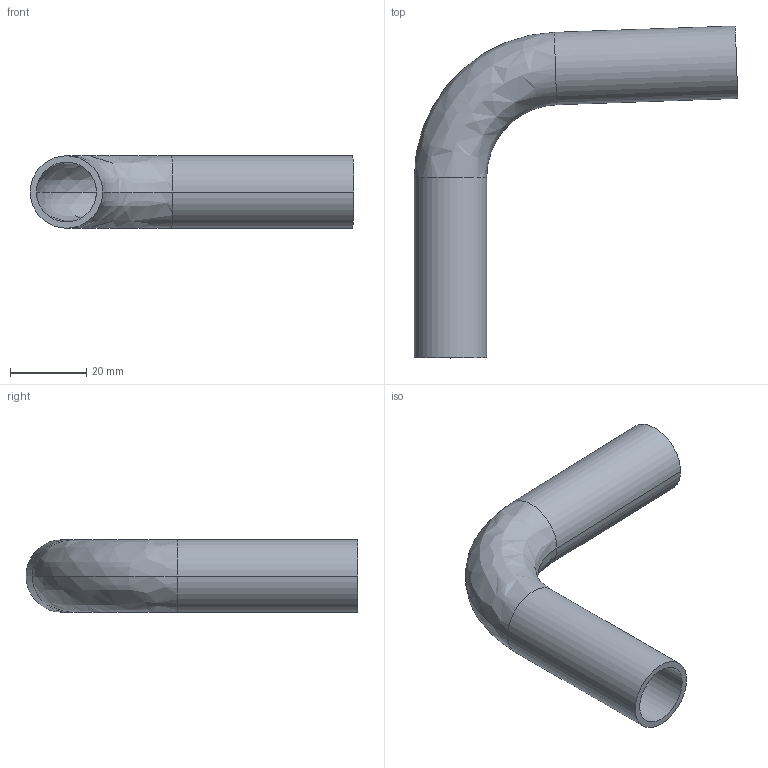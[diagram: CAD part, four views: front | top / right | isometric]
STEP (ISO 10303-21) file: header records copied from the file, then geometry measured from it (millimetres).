
FILE_DESCRIPTION (( 'STEP AP214' ), '1' );
FILE_NAME ('TE2S886L.75-...STEP', '2016-05-22T08:36:18', ( 'eran' ), ( '' ), 'SwSTEP 2.0', 'SolidWorks 2016', '' );
FILE_SCHEMA (( 'AUTOMOTIVE_DESIGN' ));
Length unit declared in the file: millimetre
Products named in the file (1): TE2S886L.75-..
Bounding box: 85.04 x 87.24 x 19.05 mm (x, y, z)
Volume: 12538 mm3; surface area: 15377.9 mm2
Topology: 1 solids, 1 shells, 14 faces, 28 edges, 16 vertices
Faces by surface type: cylinder 8, bspline 4, plane 2
Entity records: 450 total; most frequent: CARTESIAN_POINT 119, DIRECTION 70, ORIENTED_EDGE 56, AXIS2_PLACEMENT_3D 31, EDGE_CURVE 28, CIRCLE 20, EDGE_LOOP 16, VERTEX_POINT 16
